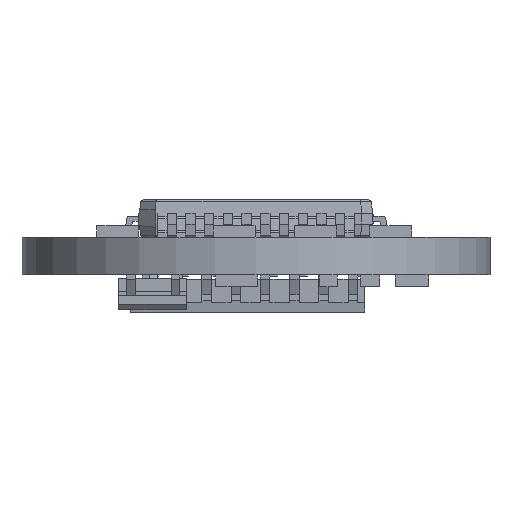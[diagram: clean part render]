
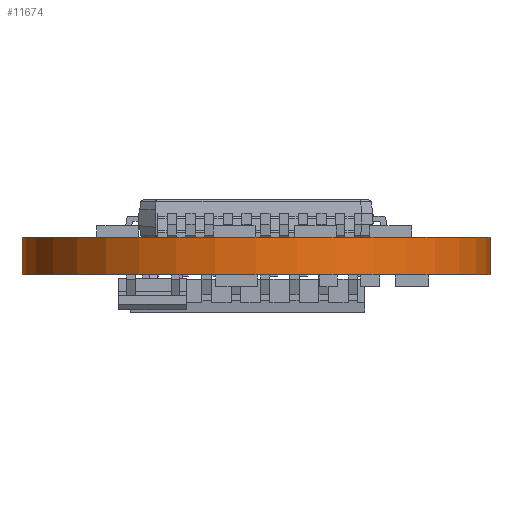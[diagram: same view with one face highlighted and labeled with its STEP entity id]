
A CAD part, front view. The second image highlights one B-rep face of the part: STEP entity #11674.
In plain terms, the highlighted cylindrical face has radius 10 mm (diameter 20 mm), a partial arc.
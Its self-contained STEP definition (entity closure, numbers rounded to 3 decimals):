
#10797 = ORIENTED_EDGE ( 'NONE', *, *, #16661, .F. ) ;
#11008 = EDGE_LOOP ( 'NONE', ( #10797, #12168, #12169, #12170 ) ) ;
#11674 = ADVANCED_FACE ( 'NONE', ( #29583 ), #29627, .T. ) ;
#12168 = ORIENTED_EDGE ( 'NONE', *, *, #14305, .F. ) ;
#12169 = ORIENTED_EDGE ( 'NONE', *, *, #16566, .T. ) ;
#12170 = ORIENTED_EDGE ( 'NONE', *, *, #15040, .T. ) ;
#14305 = EDGE_CURVE ( 'NONE', #16379, #16529, #32119, .T. ) ;
#15040 = EDGE_CURVE ( 'NONE', #16654, #16664, #32819, .T. ) ;
#16379 = VERTEX_POINT ( 'NONE', #34218 ) ;
#16529 = VERTEX_POINT ( 'NONE', #34411 ) ;
#16566 = EDGE_CURVE ( 'NONE', #16379, #16654, #34472, .T. ) ;
#16654 = VERTEX_POINT ( 'NONE', #34674 ) ;
#16661 = EDGE_CURVE ( 'NONE', #16529, #16664, #34719, .T. ) ;
#16664 = VERTEX_POINT ( 'NONE', #34715 ) ;
#29583 = FACE_OUTER_BOUND ( 'NONE', #11008, .T. ) ;
#29624 = DIRECTION ( 'NONE',  ( 1., 0., 0. ) ) ;
#29625 = DIRECTION ( 'NONE',  ( 0., 0., 1. ) ) ;
#29626 = AXIS2_PLACEMENT_3D ( 'NONE', #29628, #29625, #29624 ) ;
#29627 = CYLINDRICAL_SURFACE ( 'NONE', #29626, 10. ) ;
#29628 = CARTESIAN_POINT ( 'NONE',  ( 5., 5.002, -1.6 ) ) ;
#32115 = DIRECTION ( 'NONE',  ( -1., 0., 0. ) ) ;
#32116 = DIRECTION ( 'NONE',  ( 0., 0., -1. ) ) ;
#32117 = CARTESIAN_POINT ( 'NONE',  ( 5., 5.002, -1.6 ) ) ;
#32118 = AXIS2_PLACEMENT_3D ( 'NONE', #32117, #32116, #32115 ) ;
#32119 = CIRCLE ( 'NONE', #32118, 10. ) ;
#32815 = DIRECTION ( 'NONE',  ( -1., 0., 0. ) ) ;
#32816 = DIRECTION ( 'NONE',  ( 0., 0., -1. ) ) ;
#32817 = CARTESIAN_POINT ( 'NONE',  ( 5., 5.002, 0. ) ) ;
#32818 = AXIS2_PLACEMENT_3D ( 'NONE', #32817, #32816, #32815 ) ;
#32819 = CIRCLE ( 'NONE', #32818, 10. ) ;
#34218 = CARTESIAN_POINT ( 'NONE',  ( 15., 5.002, -1.6 ) ) ;
#34411 = CARTESIAN_POINT ( 'NONE',  ( -5., 5.002, -1.6 ) ) ;
#34469 = DIRECTION ( 'NONE',  ( 0., 0., 1. ) ) ;
#34470 = VECTOR ( 'NONE', #34469, 1000. ) ;
#34471 = CARTESIAN_POINT ( 'NONE',  ( 15., 5.002, -1.6 ) ) ;
#34472 = LINE ( 'NONE', #34471, #34470 ) ;
#34674 = CARTESIAN_POINT ( 'NONE',  ( 15., 5.002, 0. ) ) ;
#34715 = CARTESIAN_POINT ( 'NONE',  ( -5., 5.002, 0. ) ) ;
#34716 = DIRECTION ( 'NONE',  ( 0., 0., 1. ) ) ;
#34717 = VECTOR ( 'NONE', #34716, 1000. ) ;
#34718 = CARTESIAN_POINT ( 'NONE',  ( -5., 5.002, -1.6 ) ) ;
#34719 = LINE ( 'NONE', #34718, #34717 ) ;
